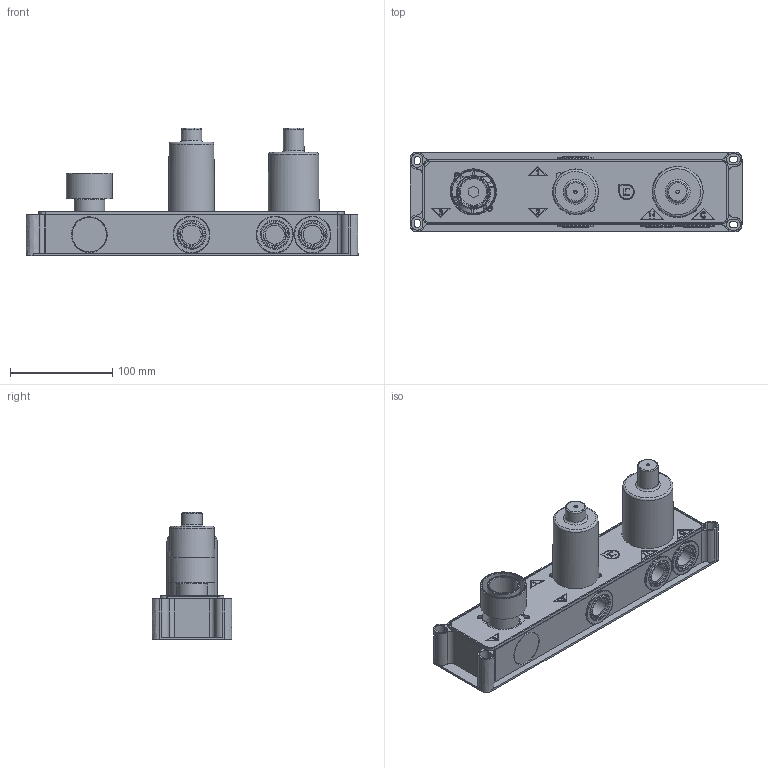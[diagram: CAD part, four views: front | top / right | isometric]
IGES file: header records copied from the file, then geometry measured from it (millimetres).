
Global section: file name: PM0020L; native system: Autodesk Inventor 2017; preprocessor: unknown; author: CIANI; date: 20210731.080153; units: millimetre
Bounding box: 325 x 78 x 124.5 mm (x, y, z)
Volume: 586892.2 mm3; surface area: 267710 mm2
Topology: 2 solids, 2 shells, 1515 faces, 4191 edges, 2720 vertices
Faces by surface type: bspline 1515
